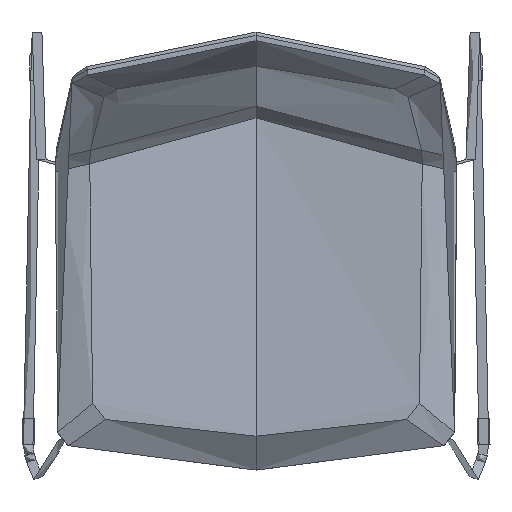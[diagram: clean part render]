
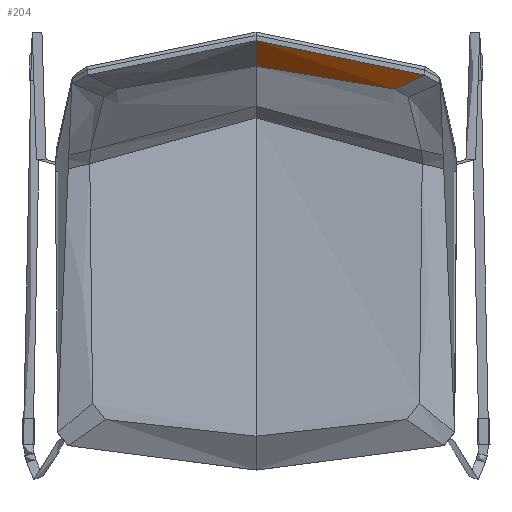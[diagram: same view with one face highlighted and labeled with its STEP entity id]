
A CAD part, top view. The second image highlights one B-rep face of the part: STEP entity #204.
In plain terms, the highlighted free-form (B-spline) face has degree [3, 4] with [6, 5] control points.
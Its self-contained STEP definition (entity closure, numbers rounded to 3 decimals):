
#204=ADVANCED_FACE('',(#362),#2110,.T.);
#362=FACE_OUTER_BOUND('',#520,.T.);
#520=EDGE_LOOP('',(#1057,#1058,#1059,#1060));
#1057=ORIENTED_EDGE('',*,*,#1475,.T.);
#1058=ORIENTED_EDGE('',*,*,#1477,.T.);
#1059=ORIENTED_EDGE('',*,*,#1478,.T.);
#1060=ORIENTED_EDGE('',*,*,#1476,.T.);
#1475=EDGE_CURVE('',#2051,#2050,#1648,.T.);
#1476=EDGE_CURVE('',#2042,#2051,#1649,.T.);
#1477=EDGE_CURVE('',#2050,#2052,#1650,.T.);
#1478=EDGE_CURVE('',#2052,#2042,#1651,.T.);
#1648=B_SPLINE_CURVE_WITH_KNOTS('',3,(#15216,#15217,#15218,#15219,#15220,
#15221,#15222,#15223,#15224,#15225,#15226,#15227,#15228,#15229,#15230,#15231,
#15232,#15233,#15234,#15235,#15236,#15237,#15238,#15239,#15240,#15241,#15242,
#15243,#15244,#15245,#15246,#15247),.UNSPECIFIED.,.F.,.F.,(4,1,1,1,1,1,
1,1,1,1,1,1,1,1,1,1,1,1,1,1,1,1,1,1,1,1,1,1,1,4),(-63.045,-54.908,
-46.771,-38.634,-33.752,-28.869,
-23.987,-19.105,-14.223,-12.801,
-11.379,-9.956,-8.534,-7.823,
-7.112,-6.4,-5.689,-4.978,
-4.267,-3.556,-3.2,-2.845,
-2.489,-2.133,-1.778,-1.422,
-1.067,-0.711,-0.356,0.),
 .UNSPECIFIED.);
#1649=B_SPLINE_CURVE_WITH_KNOTS('',3,(#15248,#15249,#15250,#15251,#15252,
#15253),.UNSPECIFIED.,.F.,.F.,(4,2,4),(0.,96.928,164.198),
 .UNSPECIFIED.);
#1650=B_SPLINE_CURVE_WITH_KNOTS('',3,(#15254,#15255,#15256,#15257,#15258,
#15259),.UNSPECIFIED.,.F.,.F.,(4,2,4),(-193.856,-96.928,
0.),.UNSPECIFIED.);
#1651=B_SPLINE_CURVE_WITH_KNOTS('',4,(#15260,#15261,#15262,#15263,#15264),
 .UNSPECIFIED.,.F.,.F.,(5,5),(-58.239,0.),.UNSPECIFIED.);
#2042=VERTEX_POINT('',#14740);
#2050=VERTEX_POINT('',#14748);
#2051=VERTEX_POINT('',#14749);
#2052=VERTEX_POINT('',#14750);
#2110=B_SPLINE_SURFACE_WITH_KNOTS('',3,4,((#9607,#9608,#9609,#9610,#9611),
(#9612,#9613,#9614,#9615,#9616),(#9617,#9618,#9619,#9620,#9621),(#9622,
#9623,#9624,#9625,#9626),(#9627,#9628,#9629,#9630,#9631),(#9632,#9633,#9634,
#9635,#9636)),.UNSPECIFIED.,.F.,.F.,.F.,(4,2,4),(5,5),(0.,96.928,
193.856),(0.,58.239),.UNSPECIFIED.);
#9607=CARTESIAN_POINT('',(0.,246.095,758.816));
#9608=CARTESIAN_POINT('',(0.,250.302,773.715));
#9609=CARTESIAN_POINT('',(0.,254.709,788.558));
#9610=CARTESIAN_POINT('',(0.,267.49,807.231));
#9611=CARTESIAN_POINT('',(0.,275.,807.231));
#9612=CARTESIAN_POINT('',(31.727,246.094,758.817));
#9613=CARTESIAN_POINT('',(31.995,250.302,773.715));
#9614=CARTESIAN_POINT('',(32.276,254.71,788.558));
#9615=CARTESIAN_POINT('',(32.879,267.494,807.231));
#9616=CARTESIAN_POINT('',(32.892,275.003,807.231));
#9617=CARTESIAN_POINT('',(63.455,243.057,758.816));
#9618=CARTESIAN_POINT('',(63.992,247.206,773.806));
#9619=CARTESIAN_POINT('',(64.555,251.542,788.743));
#9620=CARTESIAN_POINT('',(65.758,264.251,807.248));
#9621=CARTESIAN_POINT('',(65.782,271.684,807.231));
#9622=CARTESIAN_POINT('',(125.745,230.96,758.817));
#9623=CARTESIAN_POINT('',(126.767,234.838,773.984));
#9624=CARTESIAN_POINT('',(127.827,238.853,789.114));
#9625=CARTESIAN_POINT('',(130.192,251.045,807.316));
#9626=CARTESIAN_POINT('',(130.241,258.549,807.23));
#9627=CARTESIAN_POINT('',(156.307,221.894,758.816));
#9628=CARTESIAN_POINT('',(157.541,225.561,774.07));
#9629=CARTESIAN_POINT('',(158.811,229.325,789.298));
#9630=CARTESIAN_POINT('',(161.744,241.09,807.37));
#9631=CARTESIAN_POINT('',(161.807,248.733,807.23));
#9632=CARTESIAN_POINT('',(185.684,209.908,758.816));
#9633=CARTESIAN_POINT('',(187.068,213.298,774.027));
#9634=CARTESIAN_POINT('',(188.469,216.733,789.226));
#9635=CARTESIAN_POINT('',(192.002,228.265,807.436));
#9636=CARTESIAN_POINT('',(192.077,235.864,807.229));
#14740=CARTESIAN_POINT('',(0.,246.095,758.816));
#14748=CARTESIAN_POINT('',(192.077,235.864,807.229));
#14749=CARTESIAN_POINT('',(158.402,220.087,758.816));
#14750=CARTESIAN_POINT('',(0.,275.,807.231));
#15216=CARTESIAN_POINT('',(158.402,220.087,758.816));
#15217=CARTESIAN_POINT('',(159.782,220.237,761.143));
#15218=CARTESIAN_POINT('',(162.54,220.529,765.797));
#15219=CARTESIAN_POINT('',(166.725,221.153,772.738));
#15220=CARTESIAN_POINT('',(170.419,221.972,778.679));
#15221=CARTESIAN_POINT('',(173.598,222.906,783.633));
#15222=CARTESIAN_POINT('',(176.232,223.836,787.629));
#15223=CARTESIAN_POINT('',(178.898,224.951,791.557));
#15224=CARTESIAN_POINT('',(181.598,226.28,795.394));
#15225=CARTESIAN_POINT('',(183.685,227.494,798.232));
#15226=CARTESIAN_POINT('',(185.137,228.45,800.128));
#15227=CARTESIAN_POINT('',(185.941,229.012,801.156));
#15228=CARTESIAN_POINT('',(186.748,229.612,802.162));
#15229=CARTESIAN_POINT('',(187.419,230.148,802.975));
#15230=CARTESIAN_POINT('',(187.957,230.603,803.608));
#15231=CARTESIAN_POINT('',(188.36,230.958,804.072));
#15232=CARTESIAN_POINT('',(188.763,231.33,804.524));
#15233=CARTESIAN_POINT('',(189.164,231.719,804.962));
#15234=CARTESIAN_POINT('',(189.564,232.128,805.384));
#15235=CARTESIAN_POINT('',(189.961,232.561,805.784));
#15236=CARTESIAN_POINT('',(190.288,232.942,806.097));
#15237=CARTESIAN_POINT('',(190.547,233.263,806.33));
#15238=CARTESIAN_POINT('',(190.738,233.512,806.496));
#15239=CARTESIAN_POINT('',(190.928,233.77,806.651));
#15240=CARTESIAN_POINT('',(191.114,234.037,806.794));
#15241=CARTESIAN_POINT('',(191.295,234.314,806.922));
#15242=CARTESIAN_POINT('',(191.471,234.603,807.032));
#15243=CARTESIAN_POINT('',(191.64,234.904,807.122));
#15244=CARTESIAN_POINT('',(191.8,235.215,807.189));
#15245=CARTESIAN_POINT('',(191.948,235.535,807.228));
#15246=CARTESIAN_POINT('',(192.036,235.754,807.232));
#15247=CARTESIAN_POINT('',(192.077,235.864,807.229));
#15248=CARTESIAN_POINT('',(0.,246.095,758.816));
#15249=CARTESIAN_POINT('',(31.727,246.094,758.817));
#15250=CARTESIAN_POINT('',(63.455,243.057,758.816));
#15251=CARTESIAN_POINT('',(116.215,232.811,758.816));
#15252=CARTESIAN_POINT('',(137.55,227.159,758.816));
#15253=CARTESIAN_POINT('',(158.402,220.087,758.816));
#15254=CARTESIAN_POINT('',(192.077,235.864,807.229));
#15255=CARTESIAN_POINT('',(161.807,248.733,807.23));
#15256=CARTESIAN_POINT('',(130.241,258.549,807.23));
#15257=CARTESIAN_POINT('',(65.782,271.684,807.231));
#15258=CARTESIAN_POINT('',(32.892,275.003,807.231));
#15259=CARTESIAN_POINT('',(0.,275.,807.231));
#15260=CARTESIAN_POINT('',(0.,275.,807.231));
#15261=CARTESIAN_POINT('',(0.,267.49,807.231));
#15262=CARTESIAN_POINT('',(0.,254.709,788.558));
#15263=CARTESIAN_POINT('',(0.,250.302,773.715));
#15264=CARTESIAN_POINT('',(0.,246.095,758.816));
